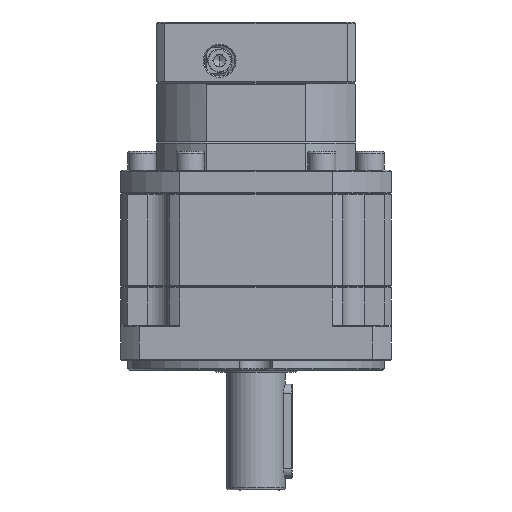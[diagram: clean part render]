
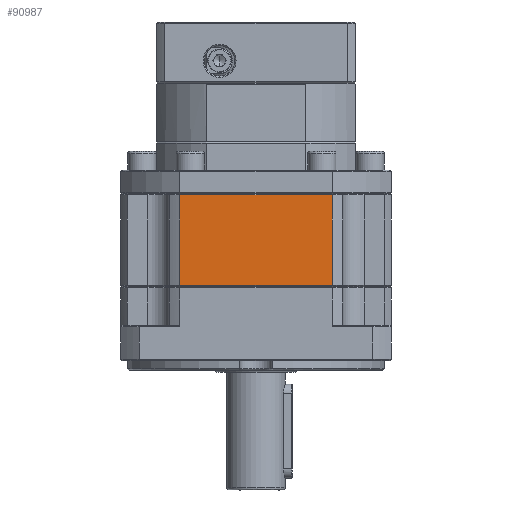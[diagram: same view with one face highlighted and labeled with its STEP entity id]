
A CAD part, front view. The second image highlights one B-rep face of the part: STEP entity #90987.
In plain terms, the highlighted planar face has unit normal (0, -1, 0).
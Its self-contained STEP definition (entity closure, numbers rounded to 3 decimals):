
#3092 = VECTOR ( 'NONE', #36186, 1000. ) ;
#3502 = VERTEX_POINT ( 'NONE', #75665 ) ;
#5312 = DIRECTION ( 'NONE',  ( -1., 0., 0. ) ) ;
#5498 = VECTOR ( 'NONE', #41470, 1000. ) ;
#11979 = FACE_OUTER_BOUND ( 'NONE', #19169, .T. ) ;
#15154 = VECTOR ( 'NONE', #52176, 1000. ) ;
#17224 = ORIENTED_EDGE ( 'NONE', *, *, #43470, .F. ) ;
#18482 = LINE ( 'NONE', #83555, #15154 ) ;
#19169 = EDGE_LOOP ( 'NONE', ( #17224, #78936, #90671, #104311 ) ) ;
#20397 = CARTESIAN_POINT ( 'NONE',  ( 85.231, 19.185, -77.248 ) ) ;
#22645 = VERTEX_POINT ( 'NONE', #82409 ) ;
#31521 = PLANE ( 'NONE',  #138358 ) ;
#36186 = DIRECTION ( 'NONE',  ( 1., 0., 0. ) ) ;
#40139 = EDGE_CURVE ( 'NONE', #130603, #3502, #18482, .T. ) ;
#41470 = DIRECTION ( 'NONE',  ( 0., 0., -1. ) ) ;
#42328 = DIRECTION ( 'NONE',  ( 0., 1., 0. ) ) ;
#43470 = EDGE_CURVE ( 'NONE', #22645, #130603, #122704, .T. ) ;
#52176 = DIRECTION ( 'NONE',  ( 0., 0., 1. ) ) ;
#56004 = CARTESIAN_POINT ( 'NONE',  ( 20.431, 19.185, -116.248 ) ) ;
#75665 = CARTESIAN_POINT ( 'NONE',  ( 20.431, 19.185, -77.748 ) ) ;
#78438 = CARTESIAN_POINT ( 'NONE',  ( 110.331, 19.185, -116.248 ) ) ;
#78936 = ORIENTED_EDGE ( 'NONE', *, *, #80640, .F. ) ;
#80640 = EDGE_CURVE ( 'NONE', #123895, #22645, #105965, .T. ) ;
#82409 = CARTESIAN_POINT ( 'NONE',  ( 85.231, 19.185, -116.248 ) ) ;
#83555 = CARTESIAN_POINT ( 'NONE',  ( 20.431, 19.185, -77.248 ) ) ;
#88219 = DIRECTION ( 'NONE',  ( -1., 0., 0. ) ) ;
#88745 = EDGE_CURVE ( 'NONE', #3502, #123895, #98547, .T. ) ;
#89394 = CARTESIAN_POINT ( 'NONE',  ( 85.231, 19.185, -77.748 ) ) ;
#90671 = ORIENTED_EDGE ( 'NONE', *, *, #88745, .F. ) ;
#90987 = ADVANCED_FACE ( 'NONE', ( #11979 ), #31521, .F. ) ;
#98547 = LINE ( 'NONE', #110176, #3092 ) ;
#101023 = VECTOR ( 'NONE', #88219, 1000. ) ;
#104311 = ORIENTED_EDGE ( 'NONE', *, *, #40139, .F. ) ;
#105965 = LINE ( 'NONE', #20397, #5498 ) ;
#106451 = CARTESIAN_POINT ( 'NONE',  ( 110.331, 19.185, -77.248 ) ) ;
#110176 = CARTESIAN_POINT ( 'NONE',  ( 52.831, 19.185, -77.748 ) ) ;
#122704 = LINE ( 'NONE', #78438, #101023 ) ;
#123895 = VERTEX_POINT ( 'NONE', #89394 ) ;
#130603 = VERTEX_POINT ( 'NONE', #56004 ) ;
#138358 = AXIS2_PLACEMENT_3D ( 'NONE', #106451, #42328, #5312 ) ;
